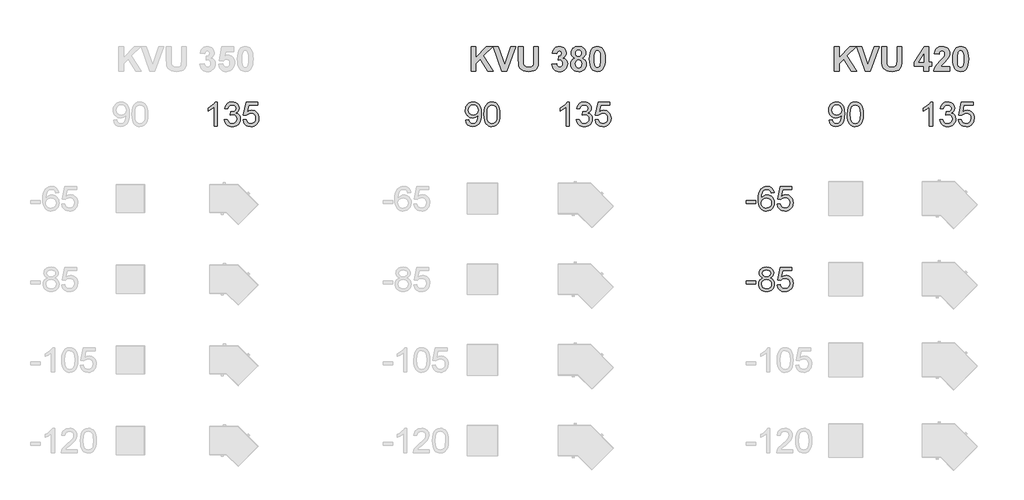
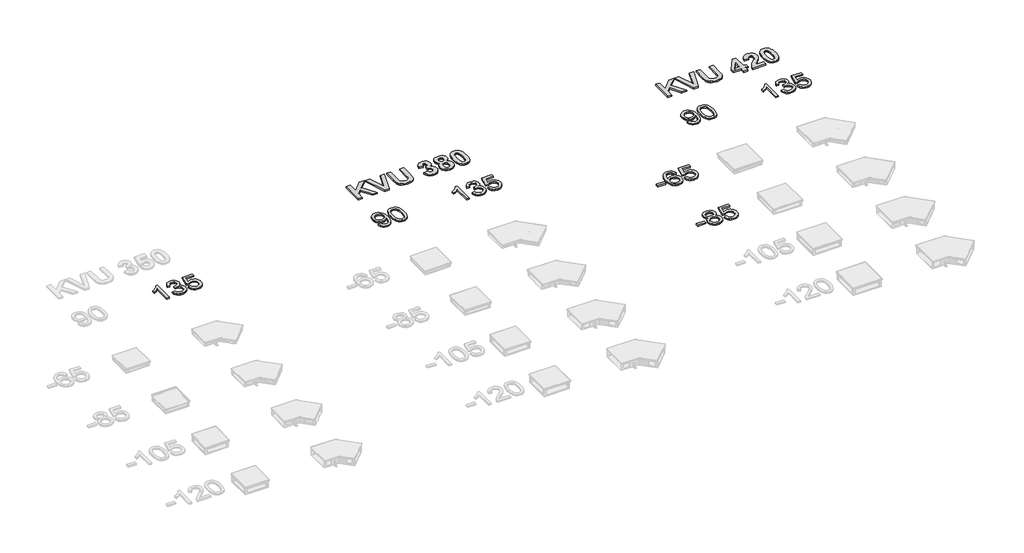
# One storey, part 6 of 6: 9 proxies.
"""IFC4 building model written with IfcOpenShell, lengths in millimetres."""

from ifc_helpers import new_model, si_unit, origin, origin_with_axes, place, context, project, spatial, polyline, outline, extrude, element, save

model = new_model("IFC4")

# Units and contexts
model_context = context("Model", 3, world=origin())
ifc_project = project(units=[si_unit("LENGTHUNIT", "METRE", prefix="MILLI")], contexts=[model_context])

# Site, building, storey
site = spatial("IfcSite", under=ifc_project)
building = spatial("IfcBuilding", under=site)
storey = spatial("IfcBuildingStorey", under=building, Name="Этаж 01", Elevation=0.0)

# Proxies
placement = place(None, origin())
element("IfcBuildingElementProxy", 1, Name="300", ObjectType="300", at=placement, inside=storey, context=model_context, shape_type="SweptSolid", body=[
    extrude(outline(polyline([(15952.7166136, 2114.0088699), (15915.0454973, 2114.0088699), (15915.0454973, 2348.8647356), (15879.3609437, 2323.4440898), (15839.7032647, 2304.4245906), (15839.7032647, 2340.0355677), (15869.2901741, 2356.130405), (15894.9223521, 2375.2786629), (15915.1282707, 2395.6409313), (15928.4364019, 2415.3778004), (15952.7166136, 2415.3778004), (15952.7166136, 2114.0088699)])), origin_with_axes(), (0.0, 0.0, 1.0), 20.0),
    extrude(outline(polyline([(16042.1855148, 2194.0599921), (16079.8566311, 2198.7688816), (16088.2903259, 2175.0956752), (16100.6419638, 2159.1112025), (16117.5185504, 2150.0061231), (16139.5270907, 2146.9710967), (16165.3524068, 2151.1465573), (16185.2916109, 2163.6729393), (16198.0387221, 2182.3613446), (16202.2877591, 2205.0228755), (16198.0755103, 2226.5347752), (16185.4387637, 2243.9815788), (16166.3089, 2255.5422705), (16142.6172995, 2259.3958344), (16116.2033722, 2255.2755561), (16120.397227, 2292.9466724), (16126.4304917, 2292.505214), (16149.0000521, 2295.2091466), (16169.1783795, 2303.3209446), (16183.4154128, 2317.042943), (16188.1610905, 2336.577477), (16184.7213938, 2352.8470582), (16174.4023039, 2366.0448248), (16158.6569545, 2374.7912192), (16138.9384795, 2377.7066841), (16119.1832164, 2374.7636281), (16103.0331968, 2365.9344602), (16091.2425789, 2351.2191804), (16084.5655207, 2330.6177887), (16046.8944044, 2335.3266782), (16057.9860465, 2369.1534277), (16077.7229155, 2394.4085266), (16104.725454, 2410.1354819), (16137.6141044, 2415.3778004), (16161.2965078, 2412.7934293), (16183.0475308, 2405.0403163), (16201.3864482, 2392.80824), (16214.8325351, 2376.7869791), (16223.0822889, 2358.3285), (16225.8322068, 2338.784769), (16223.2202446, 2320.5746102), (16215.3843581, 2304.0567086), (16202.4349119, 2289.9852223), (16184.4822705, 2279.1143093), (16208.0635064, 2269.5861657), (16225.5379012, 2253.3625697), (16236.3536319, 2231.3264382), (16239.9588754, 2204.3606879), (16238.1562536, 2185.2492183), (16232.7483883, 2167.6460648), (16223.7352794, 2151.5512275), (16211.116927, 2136.9647064), (16195.7440581, 2124.8613888), (16178.4673999, 2116.2161619), (16159.2869524, 2111.0290257), (16138.2027156, 2109.2999804), (16119.1464282, 2110.7761069), (16101.782398, 2115.2044864), (16086.110625, 2122.5851189), (16072.1311092, 2132.9180045), (16060.4094691, 2145.5961377), (16051.5113234, 2160.0125134), (16045.4366719, 2176.1671315), (16042.1855148, 2194.0599921)])), origin_with_axes(), (0.0, 0.0, 1.0), 20.0),
    extrude(outline(polyline([(16272.9211022, 2194.0599921), (16310.5922185, 2198.7688816), (16317.5084, 2176.1533359), (16329.5749294, 2159.9573311), (16346.7366245, 2150.2176553), (16368.9383029, 2146.9710967), (16395.9408414, 2151.4868482), (16416.1743511, 2165.0341026), (16428.8110976, 2186.0493616), (16433.0233465, 2212.9691266), (16429.0778121, 2238.3161961), (16417.2412089, 2257.7035772), (16397.4215664, 2270.00923), (16369.5269141, 2274.1111142), (16351.252376, 2272.4740393), (16336.4543228, 2267.5628147), (16315.301108, 2250.5666665), (16277.6299917, 2255.2755561), (16310.5922185, 2410.6689108), (16456.5677942, 2410.6689108), (16456.5677942, 2372.9977945), (16341.0528477, 2372.9977945), (16324.9396163, 2290.0036164), (16351.8501843, 2306.337577), (16380.0483392, 2311.7822305), (16398.3941544, 2310.0945719), (16415.2454491, 2305.0315959), (16430.6022231, 2296.5933026), (16444.4644765, 2284.7796921), (16455.9400955, 2270.3127326), (16464.1369662, 2253.9143927), (16469.0550887, 2235.5846723), (16470.6944628, 2215.3235714), (16464.7899568, 2177.6524551), (16457.4093242, 2160.858642), (16447.0764387, 2145.4259923), (16431.4230598, 2129.6208621), (16413.1577187, 2118.3314834), (16392.2804155, 2111.5578561), (16368.7911501, 2109.2999804), (16331.7914185, 2115.1033188), (16316.1127477, 2122.3574919), (16302.3148736, 2132.5133343), (16290.8346561, 2145.0650081), (16282.108955, 2159.5066757), (16272.9211022, 2194.0599921)])), origin_with_axes(), (0.0, 0.0, 1.0), 20.0),
])
element("IfcBuildingElementProxy", 2, Name="300", ObjectType="300", at=placement, inside=storey, context=model_context, shape_type="SweptSolid", body=[
    extrude(outline(polyline([(19031.5266107, 2189.3511025), (19069.197727, 2194.0599921), (19075.6356619, 2172.6768511), (19086.1202987, 2158.1179211), (19100.3941202, 2149.7578028), (19118.1996087, 2146.9710967), (19134.1748844, 2148.7645214), (19148.6970261, 2154.1447956), (19160.7635556, 2162.523308), (19169.3719943, 2173.3114475), (19181.6960411, 2206.0529451), (19187.1406946, 2249.7573261), (19186.9199654, 2257.114966), (19173.8693516, 2241.1856756), (19156.79043, 2228.5673232), (19136.9156052, 2220.3451606), (19115.477282, 2217.6044398), (19097.5821222, 2219.2783028), (19081.1263007, 2224.2998921), (19066.1098175, 2232.6692075), (19052.5326726, 2244.386249), (19041.2823813, 2258.8394129), (19033.246459, 2275.4170953), (19028.4249056, 2294.1192962), (19026.8177211, 2314.9460157), (19028.5030805, 2336.4671124), (19033.5591587, 2355.7809171), (19041.9859556, 2372.8874299), (19053.7834714, 2387.7866507), (19068.1193729, 2399.8577787), (19084.1613271, 2408.4800129), (19101.9093341, 2413.6533535), (19121.3633939, 2415.3778004), (19149.4603813, 2411.441463), (19175.037377, 2399.632451), (19196.429715, 2380.5393754), (19211.9727293, 2354.7508476), (19221.4364936, 2319.1030822), (19224.5910817, 2270.4322943), (19221.4456907, 2218.8276474), (19212.0095175, 2178.9400421), (19196.3653357, 2148.9668565), (19174.5959186, 2127.1054689), (19147.6393654, 2113.7513525), (19116.4337752, 2109.2999804), (19084.2257065, 2114.5514959), (19058.5291491, 2130.3060423), (19040.5581136, 2155.5703383), (19031.5266107, 2189.3511025)]), holes=[polyline([(19186.9199654, 2315.8289325), (19182.8548694, 2341.3599429), (19170.6595812, 2361.0048415), (19151.7320526, 2373.5312234), (19127.470235, 2377.7066841), (19102.3071065, 2373.2093267), (19082.1471732, 2359.7172545), (19068.9034214, 2339.0698775), (19064.4888374, 2313.1066057), (19068.6642981, 2289.8288725), (19081.19068, 2271.3519992), (19100.8539727, 2259.2946669), (19126.4401654, 2255.2755561), (19150.508845, 2259.2946669), (19169.8870291, 2271.3519992), (19182.6617313, 2290.5094541), (19186.9199654, 2315.8289325)])]), origin_with_axes(), (0.0, 0.0, 1.0), 20.0),
    extrude(outline(polyline([(19257.5533085, 2262.265314), (19260.3216205, 2310.5038406), (19268.6265566, 2348.9751002), (19282.3853432, 2378.2677041), (19301.5152069, 2398.9702634), (19326.1541036, 2411.2759161), (19356.4399888, 2415.3778004), (19379.6533427, 2412.9497792), (19400.4386754, 2405.6657157), (19417.8210997, 2393.8107184), (19430.8257282, 2377.6698959), (19440.6481775, 2357.3812038), (19448.484064, 2333.082598), (19453.6160178, 2302.2264957), (19455.3266691, 2262.265314), (19452.5859482, 2214.3026988), (19444.3637857, 2175.9234097), (19430.6877725, 2146.6032147), (19411.5854999, 2125.817882), (19386.891421, 2113.4294558), (19356.4399888, 2109.2999804), (19335.6914443, 2111.0934051), (19317.2973445, 2116.4736793), (19301.2576895, 2125.4408029), (19287.5724793, 2137.994776), (19274.4390921, 2160.6884966), (19265.0581012, 2188.9648264), (19259.4295067, 2222.8237656), (19257.5533085, 2262.265314)]), holes=[polyline([(19295.2244248, 2262.3388904), (19299.6390087, 2203.082298), (19305.1572387, 2182.8142993), (19312.8827606, 2168.786499), (19332.6012355, 2152.4249473), (19356.4399888, 2146.9710967), (19380.2787421, 2152.4433414), (19399.997217, 2168.8600754), (19407.7227389, 2182.9108683), (19413.2409689, 2203.1742685), (19417.6555528, 2262.3388904), (19413.3881217, 2320.2619105), (19408.0538327, 2340.4632306), (19400.5858282, 2354.824424), (19380.9041415, 2371.986119), (19355.9985304, 2377.7066841), (19332.4172945, 2372.6667007), (19313.4713718, 2357.5467507), (19305.4883325, 2341.9117659), (19299.7861615, 2320.8321276), (19295.2244248, 2262.3388904)])]), origin_with_axes(), (0.0, 0.0, 1.0), 20.0),
])
element("IfcBuildingElementProxy", 3, Name="300", ObjectType="300", at=placement, inside=storey, context=model_context, shape_type="SweptSolid", body=[
    extrude(outline(polyline([(20312.7166136, 2114.0088699), (20275.0454973, 2114.0088699), (20275.0454973, 2348.8647356), (20239.3609437, 2323.4440898), (20199.7032647, 2304.4245906), (20199.7032647, 2340.0355677), (20229.2901741, 2356.130405), (20254.9223521, 2375.2786629), (20275.1282707, 2395.6409313), (20288.4364019, 2415.3778004), (20312.7166136, 2415.3778004), (20312.7166136, 2114.0088699)])), origin_with_axes(), (0.0, 0.0, 1.0), 20.0),
    extrude(outline(polyline([(20402.1855148, 2194.0599921), (20439.8566311, 2198.7688816), (20448.2903259, 2175.0956752), (20460.6419638, 2159.1112025), (20477.5185504, 2150.0061231), (20499.5270907, 2146.9710967), (20525.3524068, 2151.1465573), (20545.2916109, 2163.6729393), (20558.0387221, 2182.3613446), (20562.2877591, 2205.0228755), (20558.0755103, 2226.5347752), (20545.4387637, 2243.9815788), (20526.3089, 2255.5422705), (20502.6172995, 2259.3958344), (20476.2033722, 2255.2755561), (20480.397227, 2292.9466724), (20486.4304917, 2292.505214), (20509.0000521, 2295.2091466), (20529.1783795, 2303.3209446), (20543.4154128, 2317.042943), (20548.1610905, 2336.577477), (20544.7213938, 2352.8470582), (20534.4023039, 2366.0448248), (20518.6569545, 2374.7912192), (20498.9384795, 2377.7066841), (20479.1832164, 2374.7636281), (20463.0331968, 2365.9344602), (20451.2425789, 2351.2191804), (20444.5655207, 2330.6177887), (20406.8944044, 2335.3266782), (20417.9860465, 2369.1534277), (20437.7229155, 2394.4085266), (20464.725454, 2410.1354819), (20497.6141044, 2415.3778004), (20521.2965078, 2412.7934293), (20543.0475308, 2405.0403163), (20561.3864482, 2392.80824), (20574.8325351, 2376.7869791), (20583.0822889, 2358.3285), (20585.8322068, 2338.784769), (20583.2202446, 2320.5746102), (20575.3843581, 2304.0567086), (20562.4349119, 2289.9852223), (20544.4822705, 2279.1143093), (20568.0635064, 2269.5861657), (20585.5379012, 2253.3625697), (20596.3536319, 2231.3264382), (20599.9588754, 2204.3606879), (20598.1562536, 2185.2492183), (20592.7483883, 2167.6460648), (20583.7352794, 2151.5512275), (20571.116927, 2136.9647064), (20555.7440581, 2124.8613888), (20538.4673999, 2116.2161619), (20519.2869524, 2111.0290257), (20498.2027156, 2109.2999804), (20479.1464282, 2110.7761069), (20461.782398, 2115.2044864), (20446.110625, 2122.5851189), (20432.1311092, 2132.9180045), (20420.4094691, 2145.5961377), (20411.5113234, 2160.0125134), (20405.4366719, 2176.1671315), (20402.1855148, 2194.0599921)])), origin_with_axes(), (0.0, 0.0, 1.0), 20.0),
    extrude(outline(polyline([(20632.9211022, 2194.0599921), (20670.5922185, 2198.7688816), (20677.5084, 2176.1533359), (20689.5749294, 2159.9573311), (20706.7366245, 2150.2176553), (20728.9383029, 2146.9710967), (20755.9408414, 2151.4868482), (20776.1743511, 2165.0341026), (20788.8110976, 2186.0493616), (20793.0233465, 2212.9691266), (20789.0778121, 2238.3161961), (20777.2412089, 2257.7035772), (20757.4215664, 2270.00923), (20729.5269141, 2274.1111142), (20711.252376, 2272.4740393), (20696.4543228, 2267.5628147), (20675.301108, 2250.5666665), (20637.6299917, 2255.2755561), (20670.5922185, 2410.6689108), (20816.5677942, 2410.6689108), (20816.5677942, 2372.9977945), (20701.0528477, 2372.9977945), (20684.9396163, 2290.0036164), (20711.8501843, 2306.337577), (20740.0483392, 2311.7822305), (20758.3941544, 2310.0945719), (20775.2454491, 2305.0315959), (20790.6022231, 2296.5933026), (20804.4644765, 2284.7796921), (20815.9400955, 2270.3127326), (20824.1369662, 2253.9143927), (20829.0550887, 2235.5846723), (20830.6944628, 2215.3235714), (20824.7899568, 2177.6524551), (20817.4093242, 2160.858642), (20807.0764387, 2145.4259923), (20791.4230598, 2129.6208621), (20773.1577187, 2118.3314834), (20752.2804155, 2111.5578561), (20728.7911501, 2109.2999804), (20691.7914185, 2115.1033188), (20676.1127477, 2122.3574919), (20662.3148736, 2132.5133343), (20650.8346561, 2145.0650081), (20642.108955, 2159.5066757), (20632.9211022, 2194.0599921)])), origin_with_axes(), (0.0, 0.0, 1.0), 20.0),
])
element("IfcBuildingElementProxy", 4, Name="300", ObjectType="300", at=placement, inside=storey, context=model_context, shape_type="SweptSolid", body=[
    extrude(outline(polyline([(23531.5266107, 2189.3511025), (23569.197727, 2194.0599921), (23575.6356619, 2172.6768511), (23586.1202987, 2158.1179211), (23600.3941202, 2149.7578028), (23618.1996087, 2146.9710967), (23634.1748844, 2148.7645214), (23648.6970261, 2154.1447956), (23660.7635556, 2162.523308), (23669.3719943, 2173.3114475), (23681.6960411, 2206.0529451), (23687.1406946, 2249.7573261), (23686.9199654, 2257.114966), (23673.8693516, 2241.1856756), (23656.79043, 2228.5673232), (23636.9156052, 2220.3451606), (23615.477282, 2217.6044398), (23597.5821222, 2219.2783028), (23581.1263007, 2224.2998921), (23566.1098175, 2232.6692075), (23552.5326726, 2244.386249), (23541.2823813, 2258.8394129), (23533.246459, 2275.4170953), (23528.4249056, 2294.1192962), (23526.8177211, 2314.9460157), (23528.5030805, 2336.4671124), (23533.5591587, 2355.7809171), (23541.9859556, 2372.8874299), (23553.7834714, 2387.7866507), (23568.1193729, 2399.8577787), (23584.1613271, 2408.4800129), (23601.9093341, 2413.6533535), (23621.3633939, 2415.3778004), (23649.4603813, 2411.441463), (23675.037377, 2399.632451), (23696.429715, 2380.5393754), (23711.9727293, 2354.7508476), (23721.4364936, 2319.1030822), (23724.5910817, 2270.4322943), (23721.4456907, 2218.8276474), (23712.0095175, 2178.9400421), (23696.3653357, 2148.9668565), (23674.5959186, 2127.1054689), (23647.6393654, 2113.7513525), (23616.4337752, 2109.2999804), (23584.2257065, 2114.5514959), (23558.5291491, 2130.3060423), (23540.5581136, 2155.5703383), (23531.5266107, 2189.3511025)]), holes=[polyline([(23686.9199654, 2315.8289325), (23682.8548694, 2341.3599429), (23670.6595812, 2361.0048415), (23651.7320526, 2373.5312234), (23627.470235, 2377.7066841), (23602.3071065, 2373.2093267), (23582.1471732, 2359.7172545), (23568.9034214, 2339.0698775), (23564.4888374, 2313.1066057), (23568.6642981, 2289.8288725), (23581.19068, 2271.3519992), (23600.8539727, 2259.2946669), (23626.4401654, 2255.2755561), (23650.508845, 2259.2946669), (23669.8870291, 2271.3519992), (23682.6617313, 2290.5094541), (23686.9199654, 2315.8289325)])]), origin_with_axes(), (0.0, 0.0, 1.0), 20.0),
    extrude(outline(polyline([(23757.5533085, 2262.265314), (23760.3216205, 2310.5038406), (23768.6265566, 2348.9751002), (23782.3853432, 2378.2677041), (23801.5152069, 2398.9702634), (23826.1541036, 2411.2759161), (23856.4399888, 2415.3778004), (23879.6533427, 2412.9497792), (23900.4386754, 2405.6657157), (23917.8210997, 2393.8107184), (23930.8257282, 2377.6698959), (23940.6481775, 2357.3812038), (23948.484064, 2333.082598), (23953.6160178, 2302.2264957), (23955.3266691, 2262.265314), (23952.5859482, 2214.3026988), (23944.3637857, 2175.9234097), (23930.6877725, 2146.6032147), (23911.5854999, 2125.817882), (23886.891421, 2113.4294558), (23856.4399888, 2109.2999804), (23835.6914443, 2111.0934051), (23817.2973445, 2116.4736793), (23801.2576895, 2125.4408029), (23787.5724793, 2137.994776), (23774.4390921, 2160.6884966), (23765.0581012, 2188.9648264), (23759.4295067, 2222.8237656), (23757.5533085, 2262.265314)]), holes=[polyline([(23795.2244248, 2262.3388904), (23799.6390087, 2203.082298), (23805.1572387, 2182.8142993), (23812.8827606, 2168.786499), (23832.6012355, 2152.4249473), (23856.4399888, 2146.9710967), (23880.2787421, 2152.4433414), (23899.997217, 2168.8600754), (23907.7227389, 2182.9108683), (23913.2409689, 2203.1742685), (23917.6555528, 2262.3388904), (23913.3881217, 2320.2619105), (23908.0538327, 2340.4632306), (23900.5858282, 2354.824424), (23880.9041415, 2371.986119), (23855.9985304, 2377.7066841), (23832.4172945, 2372.6667007), (23813.4713718, 2357.5467507), (23805.4883325, 2341.9117659), (23799.7861615, 2320.8321276), (23795.2244248, 2262.3388904)])]), origin_with_axes(), (0.0, 0.0, 1.0), 20.0),
])
element("IfcBuildingElementProxy", 5, Name="300", ObjectType="300", at=placement, inside=storey, context=model_context, shape_type="SweptSolid", body=[
    extrude(outline(polyline([(24812.7166136, 2114.0088699), (24775.0454973, 2114.0088699), (24775.0454973, 2348.8647356), (24739.3609437, 2323.4440898), (24699.7032647, 2304.4245906), (24699.7032647, 2340.0355677), (24729.2901741, 2356.130405), (24754.9223521, 2375.2786629), (24775.1282707, 2395.6409313), (24788.4364019, 2415.3778004), (24812.7166136, 2415.3778004), (24812.7166136, 2114.0088699)])), origin_with_axes(), (0.0, 0.0, 1.0), 20.0),
    extrude(outline(polyline([(24902.1855148, 2194.0599921), (24939.8566311, 2198.7688816), (24948.2903259, 2175.0956752), (24960.6419638, 2159.1112025), (24977.5185504, 2150.0061231), (24999.5270907, 2146.9710967), (25025.3524068, 2151.1465573), (25045.2916109, 2163.6729393), (25058.0387221, 2182.3613446), (25062.2877591, 2205.0228755), (25058.0755103, 2226.5347752), (25045.4387637, 2243.9815788), (25026.3089, 2255.5422705), (25002.6172995, 2259.3958344), (24976.2033722, 2255.2755561), (24980.397227, 2292.9466724), (24986.4304917, 2292.505214), (25009.0000521, 2295.2091466), (25029.1783795, 2303.3209446), (25043.4154128, 2317.042943), (25048.1610905, 2336.577477), (25044.7213938, 2352.8470582), (25034.4023039, 2366.0448248), (25018.6569545, 2374.7912192), (24998.9384795, 2377.7066841), (24979.1832164, 2374.7636281), (24963.0331968, 2365.9344602), (24951.2425789, 2351.2191804), (24944.5655207, 2330.6177887), (24906.8944044, 2335.3266782), (24917.9860465, 2369.1534277), (24937.7229155, 2394.4085266), (24964.725454, 2410.1354819), (24997.6141044, 2415.3778004), (25021.2965078, 2412.7934293), (25043.0475308, 2405.0403163), (25061.3864482, 2392.80824), (25074.8325351, 2376.7869791), (25083.0822889, 2358.3285), (25085.8322068, 2338.784769), (25083.2202446, 2320.5746102), (25075.3843581, 2304.0567086), (25062.4349119, 2289.9852223), (25044.4822705, 2279.1143093), (25068.0635064, 2269.5861657), (25085.5379012, 2253.3625697), (25096.3536319, 2231.3264382), (25099.9588754, 2204.3606879), (25098.1562536, 2185.2492183), (25092.7483883, 2167.6460648), (25083.7352794, 2151.5512275), (25071.116927, 2136.9647064), (25055.7440581, 2124.8613888), (25038.4673999, 2116.2161619), (25019.2869524, 2111.0290257), (24998.2027156, 2109.2999804), (24979.1464282, 2110.7761069), (24961.782398, 2115.2044864), (24946.110625, 2122.5851189), (24932.1311092, 2132.9180045), (24920.4094691, 2145.5961377), (24911.5113234, 2160.0125134), (24905.4366719, 2176.1671315), (24902.1855148, 2194.0599921)])), origin_with_axes(), (0.0, 0.0, 1.0), 20.0),
    extrude(outline(polyline([(25132.9211022, 2194.0599921), (25170.5922185, 2198.7688816), (25177.5084, 2176.1533359), (25189.5749294, 2159.9573311), (25206.7366245, 2150.2176553), (25228.9383029, 2146.9710967), (25255.9408414, 2151.4868482), (25276.1743511, 2165.0341026), (25288.8110976, 2186.0493616), (25293.0233465, 2212.9691266), (25289.0778121, 2238.3161961), (25277.2412089, 2257.7035772), (25257.4215664, 2270.00923), (25229.5269141, 2274.1111142), (25211.252376, 2272.4740393), (25196.4543228, 2267.5628147), (25175.301108, 2250.5666665), (25137.6299917, 2255.2755561), (25170.5922185, 2410.6689108), (25316.5677942, 2410.6689108), (25316.5677942, 2372.9977945), (25201.0528477, 2372.9977945), (25184.9396163, 2290.0036164), (25211.8501843, 2306.337577), (25240.0483392, 2311.7822305), (25258.3941544, 2310.0945719), (25275.2454491, 2305.0315959), (25290.6022231, 2296.5933026), (25304.4644765, 2284.7796921), (25315.9400955, 2270.3127326), (25324.1369662, 2253.9143927), (25329.0550887, 2235.5846723), (25330.6944628, 2215.3235714), (25324.7899568, 2177.6524551), (25317.4093242, 2160.858642), (25307.0764387, 2145.4259923), (25291.4230598, 2129.6208621), (25273.1577187, 2118.3314834), (25252.2804155, 2111.5578561), (25228.7911501, 2109.2999804), (25191.7914185, 2115.1033188), (25176.1127477, 2122.3574919), (25162.3148736, 2132.5133343), (25150.8346561, 2145.0650081), (25142.108955, 2159.5066757), (25132.9211022, 2194.0599921)])), origin_with_axes(), (0.0, 0.0, 1.0), 20.0),
])
element("IfcBuildingElementProxy", 6, Name="300", ObjectType="300", at=placement, inside=storey, context=model_context, shape_type="SweptSolid", body=[
    extrude(outline(polyline([(22506.6903592, 157.6054217), (22506.6903592, 195.276538), (22624.4125977, 195.276538), (22624.4125977, 157.6054217), (22506.6903592, 157.6054217)])), origin_with_axes(), (0.0, 0.0, 1.0), 20.0),
    extrude(outline(polyline([(22712.2628181, 234.1248767), (22692.0936877, 244.0576906), (22677.939428, 257.5221716), (22669.5793096, 274.2424083), (22666.7926035, 293.9424891), (22668.3101167, 309.3061609), (22672.8626564, 323.3914428), (22680.4502226, 336.1983348), (22691.0728152, 347.7268368), (22704.219998, 357.2549805), (22719.3813347, 364.0607974), (22755.74647, 369.5054509), (22792.3323344, 363.9320387), (22807.659218, 356.9652734), (22821.0087359, 347.211802), (22831.8244666, 335.4579723), (22839.5499885, 322.4901319), (22844.1853016, 308.308281), (22845.730406, 292.9124195), (22842.9804881, 273.8469351), (22834.7307343, 257.411807), (22820.8891742, 244.0300994), (22801.3638374, 234.1248767), (22824.5496001, 222.1779089), (22841.4261866, 204.5839525), (22851.7176854, 182.189136), (22855.148185, 155.8395881), (22853.4467308, 137.0500152), (22848.3423681, 119.8239408), (22839.835097, 104.1613649), (22827.9249174, 90.0622874), (22813.2372287, 78.4096252), (22796.3974304, 70.0862951), (22777.4055224, 65.092297), (22756.2615047, 63.4276309), (22735.1174871, 65.0991948), (22716.1255791, 70.1138862), (22699.2857807, 78.4717053), (22684.5980921, 90.172652), (22672.6879125, 104.3705977), (22664.1806414, 120.2194139), (22659.0762787, 137.7191006), (22657.3748244, 156.8696577), (22660.9432798, 184.2400782), (22671.6486459, 206.7544563), (22688.9390996, 223.6402398), (22712.2628181, 234.1248767)]), holes=[polyline([(22704.4637198, 292.8388431), (22707.8022489, 276.3945179), (22717.8178362, 263.2611307), (22734.2161762, 254.652692), (22756.7029631, 251.7832125), (22778.6655183, 254.6342979), (22794.8155378, 263.1875543), (22804.7483517, 275.8794832), (22808.0592897, 291.146586), (22804.6379871, 306.9931029), (22794.3740794, 320.098899), (22778.0033307, 328.9004757), (22756.2615047, 331.8343346), (22734.3817231, 328.9648551), (22718.0385654, 320.3564164), (22707.8574312, 307.7380639), (22704.4637198, 292.8388431)]), polyline([(22695.0459407, 158.1940329), (22701.3367229, 129.8303311), (22710.0463291, 117.6626341), (22723.5935836, 108.6035399), (22739.8171796, 102.9749454), (22756.5558103, 101.0987472), (22782.1971854, 105.0442816), (22801.4374138, 116.8808848), (22813.467155, 134.8059351), (22817.4770687, 157.0168105), (22813.3383963, 179.604765), (22800.922379, 197.9252884), (22781.2406922, 210.0653942), (22755.3050116, 214.1120962), (22730.0223214, 210.1205765), (22710.9752311, 198.1460176), (22699.0282633, 180.1749821), (22695.0459407, 158.1940329)])]), origin_with_axes(), (0.0, 0.0, 1.0), 20.0),
    extrude(outline(polyline([(22888.1104118, 148.1876426), (22925.7815281, 152.8965322), (22932.6977096, 130.2809865), (22944.7642391, 114.0849817), (22961.9259341, 104.3453059), (22984.1276126, 101.0987472), (23011.130151, 105.6144987), (23031.3636607, 119.1617532), (23044.0004073, 140.1770122), (23048.2126561, 167.0967772), (23044.2671217, 192.4438466), (23032.4305185, 211.8312278), (23012.610876, 224.1368805), (22984.7162238, 228.2387648), (22966.4416856, 226.6016899), (22951.6436324, 221.6904653), (22930.4904177, 204.6943171), (22892.8193014, 209.4032066), (22925.7815281, 364.7965614), (23071.7571038, 364.7965614), (23071.7571038, 327.1254451), (22956.2421573, 327.1254451), (22940.1289259, 244.131267), (22967.0394939, 260.4652276), (22995.2376488, 265.9098811), (23013.5834641, 264.2222224), (23030.4347587, 259.1592465), (23045.7915327, 250.7209532), (23059.6537862, 238.9073426), (23071.1294052, 224.4403832), (23079.3262759, 208.0420432), (23084.2443983, 189.7123228), (23085.8837724, 169.4512219), (23079.9792664, 131.7801056), (23072.5986339, 114.9862926), (23062.2657483, 99.5536429), (23046.6123694, 83.7485126), (23028.3470284, 72.4591339), (23007.4697252, 65.6855067), (22983.9804598, 63.4276309), (22946.9807281, 69.2309694), (22931.3020573, 76.4851425), (22917.5041832, 86.6409848), (22906.0239657, 99.1926587), (22897.2982646, 113.6343262), (22888.1104118, 148.1876426)])), origin_with_axes(), (0.0, 0.0, 1.0), 20.0),
])
element("IfcBuildingElementProxy", 7, Name="300", ObjectType="300", at=placement, inside=storey, context=model_context, shape_type="SweptSolid", body=[
    extrude(outline(polyline([(22506.6903592, 1157.6054217), (22506.6903592, 1195.276538), (22624.4125977, 1195.276538), (22624.4125977, 1157.6054217), (22506.6903592, 1157.6054217)])), origin_with_axes(), (0.0, 0.0, 1.0), 20.0),
    extrude(outline(polyline([(22850.4392955, 1289.4543288), (22812.7681792, 1284.7454392), (22806.6981263, 1303.4154505), (22798.4943578, 1316.1625616), (22781.4062391, 1327.9163914), (22760.7496651, 1331.8343346), (22743.2384821, 1329.5534662), (22726.7573687, 1322.7108611), (22712.603109, 1308.299084), (22701.0424173, 1288.4610474), (22693.2341219, 1260.4008482), (22690.3370512, 1221.3225833), (22705.4478042, 1238.9533279), (22723.5567954, 1251.3785423), (22743.6523494, 1258.7453792), (22764.7227906, 1261.2009915), (22782.8225848, 1259.5225299), (22799.5244274, 1254.4871451), (22814.8283184, 1246.0948371), (22828.7342578, 1234.3456059), (22840.290351, 1219.9384273), (22848.5447032, 1203.572277), (22853.4973146, 1185.2471551), (22855.148185, 1164.9630616), (22852.0395822, 1137.9881143), (22842.7137736, 1112.9813357), (22827.9433115, 1091.7729387), (22808.5007481, 1076.1931362), (22785.2690001, 1066.6190072), (22759.1309843, 1063.4276309), (22736.6740878, 1065.5429524), (22716.3922935, 1071.8889168), (22698.2856016, 1082.4655242), (22682.3540119, 1097.2727745), (22669.3654782, 1116.9360671), (22660.0879542, 1142.0808015), (22654.5214397, 1172.7069776), (22652.6659349, 1208.8145954), (22654.7260741, 1249.2954105), (22660.9064916, 1283.8441283), (22671.2071875, 1312.460749), (22685.6281617, 1335.1452726), (22701.2585479, 1350.1778506), (22719.3813347, 1360.9154063), (22739.996522, 1367.3579398), (22763.1041099, 1369.5054509), (22796.1583071, 1364.1895561), (22822.6274167, 1348.2418716), (22841.1686692, 1322.9131962), (22850.4392955, 1289.4543288)]), holes=[polyline([(22690.3370512, 1165.5516728), (22692.516752, 1148.8590273), (22699.0558545, 1132.9205398), (22709.2093976, 1119.2169355), (22722.2324202, 1109.2289393), (22737.9501784, 1103.1312953), (22756.1879283, 1101.0987472), (22781.0475542, 1105.3109961), (22800.5912852, 1117.9477426), (22813.2556228, 1137.8133704), (22817.4770687, 1163.7122628), (22813.3108051, 1188.5718886), (22800.8120144, 1207.5270084), (22780.9371896, 1219.5291585), (22754.642824, 1223.5298752), (22729.8199863, 1219.5291585), (22709.0622448, 1207.5270084), (22695.0183496, 1189.0317411), (22690.3370512, 1165.5516728)])]), origin_with_axes(), (0.0, 0.0, 1.0), 20.0),
    extrude(outline(polyline([(22888.1104118, 1148.1876426), (22925.7815281, 1152.8965322), (22932.6977096, 1130.2809865), (22944.7642391, 1114.0849817), (22961.9259341, 1104.3453059), (22984.1276126, 1101.0987472), (23011.130151, 1105.6144987), (23031.3636607, 1119.1617532), (23044.0004073, 1140.1770122), (23048.2126561, 1167.0967772), (23044.2671217, 1192.4438466), (23032.4305185, 1211.8312278), (23012.610876, 1224.1368805), (22984.7162238, 1228.2387648), (22966.4416856, 1226.6016899), (22951.6436324, 1221.6904653), (22930.4904177, 1204.6943171), (22892.8193014, 1209.4032066), (22925.7815281, 1364.7965614), (23071.7571038, 1364.7965614), (23071.7571038, 1327.1254451), (22956.2421573, 1327.1254451), (22940.1289259, 1244.131267), (22967.0394939, 1260.4652276), (22995.2376488, 1265.9098811), (23013.5834641, 1264.2222224), (23030.4347587, 1259.1592465), (23045.7915327, 1250.7209532), (23059.6537862, 1238.9073426), (23071.1294052, 1224.4403832), (23079.3262759, 1208.0420432), (23084.2443983, 1189.7123228), (23085.8837724, 1169.4512219), (23079.9792664, 1131.7801056), (23072.5986339, 1114.9862926), (23062.2657483, 1099.5536429), (23046.6123694, 1083.7485126), (23028.3470284, 1072.4591339), (23007.4697252, 1065.6855067), (22983.9804598, 1063.4276309), (22946.9807281, 1069.2309694), (22931.3020573, 1076.4851425), (22917.5041832, 1086.6409848), (22906.0239657, 1099.1926587), (22897.2982646, 1113.6343262), (22888.1104118, 1148.1876426)])), origin_with_axes(), (0.0, 0.0, 1.0), 20.0),
])
element("IfcBuildingElementProxy", 8, Name="300_", ObjectType="300_", at=placement, inside=storey, context=model_context, shape_type="SweptSolid", body=[
    extrude(outline(polyline([(19096.673179, 2797.023962), (19096.673179, 3103.101782), (19154.9737162, 3103.101782), (19154.9737162, 2963.5752361), (19286.3017491, 3103.101782), (19366.3131633, 3103.101782), (19250.4712106, 2986.1970591), (19371.1715414, 2797.023962), (19303.0024238, 2797.023962), (19212.5910439, 2947.8614194), (19154.9737162, 2889.6367945), (19154.9737162, 2797.023962), (19096.673179, 2797.023962)])), origin_with_axes(), (0.0, 0.0, 1.0), 20.0),
    extrude(outline(polyline([(19476.7653528, 2797.023962), (19373.6007305, 3103.101782), (19435.0895782, 3103.101782), (19512.0645062, 2874.7580115), (19589.2671706, 3103.101782), (19650.5282819, 3103.101782), (19541.8979842, 2797.023962), (19476.7653528, 2797.023962)])), origin_with_axes(), (0.0, 0.0, 1.0), 20.0),
    extrude(outline(polyline([(19684.5369285, 3103.101782), (19742.8374657, 3103.101782), (19742.8374657, 2937.9928389), (19745.3425669, 2886.9798689), (19752.6491121, 2870.1368589), (19765.9147616, 2856.9566106), (19785.1395156, 2848.4449599), (19810.3233739, 2845.607743), (19835.4787652, 2848.2836465), (19853.5553477, 2856.3113572), (19865.1983749, 2868.239055), (19871.0531001, 2882.6149199), (19874.0136743, 2934.4249675), (19874.0136743, 3103.101782), (19932.3142114, 3103.101782), (19932.3142114, 2942.5475684), (19931.0426828, 2895.5389647), (19927.2280968, 2864.7376067), (19919.9974638, 2843.7953402), (19908.4777939, 2826.364011), (19892.5077737, 2812.2917948), (19871.9260899, 2801.4268672), (19845.5371261, 2794.4809047), (19812.1452657, 2792.1655839), (19773.0315264, 2794.6896632), (19744.6593575, 2802.2619009), (19724.0681847, 2813.876461), (19708.2974339, 2828.5275075), (19697.2142589, 2845.0953359), (19690.6858133, 2862.460242), (19686.0741497, 2894.9886016), (19684.5369285, 2940.0424672), (19684.5369285, 3103.101782)])), origin_with_axes(), (0.0, 0.0, 1.0), 20.0),
    extrude(outline(polyline([(20097.4990666, 2882.5769638), (20155.7996038, 2889.3331458), (20160.2973991, 2870.5828429), (20168.9324071, 2856.8427423), (20180.7557256, 2848.4164928), (20194.8184528, 2845.607743), (20209.9059942, 2848.8245207), (20222.3745661, 2858.4748537), (20230.7438815, 2873.5718841), (20233.5336533, 2893.1287537), (20230.981107, 2911.6323422), (20223.3234681, 2925.8468937), (20211.9840895, 2934.8994185), (20198.3863243, 2937.9169268), (20175.2331161, 2933.5899338), (20180.3192307, 2981.6423296), (20196.9155262, 2983.729914), (20209.0519824, 2991.2072615), (20216.4818849, 3003.0495581), (20218.958519, 3018.2319897), (20217.1081602, 3031.1275675), (20211.5570836, 3041.1195052), (20202.9315647, 3047.5245935), (20191.8578787, 3049.659623), (20180.5944123, 3047.1829888), (20171.0959036, 3039.7530864), (20164.1784082, 3027.559696), (20160.6579819, 3010.7925982), (20102.3574447, 3019.5224963), (20109.0282256, 3045.6078115), (20118.4128661, 3065.8668686), (20131.2799768, 3081.3624378), (20148.3981684, 3093.1572894), (20168.7900718, 3100.6156588), (20191.4783179, 3103.101782), (20210.8833632, 3101.3795249), (20228.2577583, 3096.2127537), (20243.6015032, 3087.6014683), (20256.9145979, 3075.5456688), (20272.1729416, 3051.5194708), (20277.2590561, 3024.5326988), (20274.530963, 3005.3980905), (20266.3466835, 2988.3036215), (20252.7062176, 2973.2492917), (20233.6095654, 2960.2351012), (20257.445983, 2951.1730873), (20275.9685495, 2935.2220452), (20287.8677802, 2913.7863496), (20291.8341904, 2888.2703756), (20290.0763495, 2869.076461), (20284.8028268, 2851.3485999), (20276.0136223, 2835.0867924), (20263.708736, 2820.2910384), (20248.7848802, 2807.9861521), (20232.1387674, 2799.1969475), (20213.7703975, 2793.9234248), (20193.6797705, 2792.1655839), (20174.6756362, 2793.7288999), (20157.365292, 2798.4188479), (20141.7487378, 2806.2354279), (20127.8259736, 2817.1786399), (20116.1236401, 2830.6459311), (20107.1683777, 2846.0347489), (20097.4990666, 2882.5769638)])), origin_with_axes(), (0.0, 0.0, 1.0), 20.0),
    extrude(outline(polyline([(20381.8660095, 2961.2219592), (20360.8952759, 2972.5898048), (20346.5668562, 2987.5634779), (20338.311409, 3005.1561205), (20335.5595933, 3024.3808744), (20337.0612307, 3040.7185941), (20341.5661428, 3055.5712823), (20349.0743296, 3068.9389388), (20359.5857912, 3080.8215637), (20372.863302, 3090.5691592), (20388.6696366, 3097.5317274), (20427.8687771, 3103.101782), (20466.830692, 3097.5317274), (20482.6251654, 3090.5691592), (20495.9619826, 3080.8215637), (20506.5564731, 3068.9389388), (20514.1239663, 3055.5712823), (20518.6644622, 3040.7185941), (20520.1779609, 3024.3808744), (20517.1130075, 3004.2926197), (20507.9181474, 2986.5386638), (20493.1627218, 2971.9160844), (20473.4160717, 2961.2219592), (20495.667823, 2948.7344093), (20511.8655796, 2931.6162177), (20521.7436491, 2910.6834402), (20525.036339, 2886.7521325), (20523.4042276, 2866.7113228), (20518.5078934, 2848.6442293), (20510.3473365, 2832.5508518), (20498.9225567, 2818.4311905), (20484.7886619, 2806.9399876), (20468.5007595, 2798.7319856), (20450.0588497, 2793.8071843), (20429.4629324, 2792.1655839), (20392.5316677, 2797.5933032), (20376.5996036, 2804.3779523), (20362.356585, 2813.876461), (20348.5073607, 2827.8964877), (20338.6150576, 2844.2982583), (20332.6796758, 2863.0817728), (20330.7012152, 2884.2470313), (20333.7851466, 2907.8462233), (20343.0369408, 2929.4527212), (20358.9120708, 2947.7001061), (20381.8660095, 2961.2219592)]), holes=[polyline([(20393.8601304, 3020.813003), (20396.1659622, 3004.3875099), (20403.0834576, 2992.0043392), (20413.8345169, 2984.232832), (20427.6410406, 2981.6423296), (20441.6468337, 2984.2612991), (20452.5402284, 2992.1182074), (20459.5431249, 3004.5867793), (20461.8774238, 3021.0407395), (20459.571592, 3036.697622), (20452.6540966, 3048.9005014), (20441.9409933, 3056.7574097), (20428.2483379, 3059.3763792), (20414.1286765, 3056.7384317), (20403.1973258, 3048.8245892), (20396.1944293, 3036.5457977), (20393.8601304, 3020.813003)]), polyline([(20389.0017523, 2889.1813215), (20391.8294802, 2866.815702), (20400.3126638, 2849.972692), (20413.0279503, 2839.4114131), (20428.5519865, 2835.8909868), (20443.6679949, 2839.2785668), (20455.9183194, 2849.4413069), (20464.0314312, 2865.9806683), (20466.7358018, 2888.4981121), (20463.9839861, 2908.6243229), (20455.728539, 2924.3666066), (20443.240989, 2934.5293467), (20427.7928649, 2937.9169268), (20410.7031404, 2934.0738738), (20398.6046403, 2922.5447148), (20391.4024743, 2906.5177605), (20389.0017523, 2889.1813215)])]), origin_with_axes(), (0.0, 0.0, 1.0), 20.0),
    extrude(outline(polyline([(20661.0709257, 3103.101782), (20681.6288869, 3101.1280659), (20699.8051041, 3095.2069176), (20715.5995775, 3085.3383371), (20729.0123068, 3071.5223244), (20741.7987609, 3049.7687467), (20750.9319424, 3021.8567952), (20756.4118513, 2987.7864699), (20758.2384876, 2947.5577708), (20756.4023622, 2907.3670278), (20750.8939863, 2873.2587464), (20741.7133597, 2845.2329267), (20728.8604825, 2823.2895686), (20715.5141763, 2809.6728253), (20699.7671481, 2799.9465801), (20681.6193978, 2794.110833), (20661.0709257, 2792.1655839), (20640.3018337, 2794.3006134), (20621.6440487, 2800.7057017), (20605.0975706, 2811.3808489), (20590.6623994, 2826.3260549), (20578.9553213, 2846.7511699), (20570.5931227, 2873.8660437), (20565.5758035, 2907.6706764), (20563.9033637, 2948.1650681), (20565.7394891, 2988.1565417), (20571.247865, 3022.1224877), (20580.4284916, 3050.0629063), (20593.2813688, 3071.9777973), (20606.627675, 3085.5945406), (20622.3747032, 3095.3207858), (20640.5224535, 3101.156533), (20661.0709257, 3103.101782)]), holes=[polyline([(20661.0709257, 3049.659623), (20650.7848283, 3048.0559786), (20641.6374133, 3043.2450456), (20634.0461975, 3034.277922), (20628.4286978, 3020.2057058), (20623.7601001, 2991.2262396), (20622.2039009, 2947.5577708), (20623.5892978, 2904.4681323), (20627.7454884, 2877.376981), (20634.0177304, 2861.4733839), (20641.7512815, 2851.9464081), (20650.8132953, 2847.1924093), (20661.0709257, 2845.607743), (20671.357023, 2847.2113873), (20680.504438, 2852.0223203), (20688.0956538, 2860.9894439), (20693.7131535, 2875.0616602), (20698.3817512, 2903.8893021), (20699.9379504, 2947.5577708), (20698.5525535, 2990.5999643), (20694.3963629, 3017.7006046), (20688.1241209, 3033.6516467), (20680.3905698, 3043.2450456), (20671.328556, 3048.0559786), (20661.0709257, 3049.659623)])]), origin_with_axes(), (0.0, 0.0, 1.0), 20.0),
])
element("IfcBuildingElementProxy", 9, Name="300_", ObjectType="300_", at=placement, inside=storey, context=model_context, shape_type="SweptSolid", body=[
    extrude(outline(polyline([(23596.673179, 2797.023962), (23596.673179, 3103.101782), (23654.9737162, 3103.101782), (23654.9737162, 2963.5752361), (23786.3017491, 3103.101782), (23866.3131633, 3103.101782), (23750.4712106, 2986.1970591), (23871.1715414, 2797.023962), (23803.0024238, 2797.023962), (23712.5910439, 2947.8614194), (23654.9737162, 2889.6367945), (23654.9737162, 2797.023962), (23596.673179, 2797.023962)])), origin_with_axes(), (0.0, 0.0, 1.0), 20.0),
    extrude(outline(polyline([(23976.7653528, 2797.023962), (23873.6007305, 3103.101782), (23935.0895782, 3103.101782), (24012.0645062, 2874.7580115), (24089.2671706, 3103.101782), (24150.5282819, 3103.101782), (24041.8979842, 2797.023962), (23976.7653528, 2797.023962)])), origin_with_axes(), (0.0, 0.0, 1.0), 20.0),
    extrude(outline(polyline([(24184.5369285, 3103.101782), (24242.8374657, 3103.101782), (24242.8374657, 2937.9928389), (24245.3425669, 2886.9798689), (24252.6491121, 2870.1368589), (24265.9147616, 2856.9566106), (24285.1395156, 2848.4449599), (24310.3233739, 2845.607743), (24335.4787652, 2848.2836465), (24353.5553477, 2856.3113572), (24365.1983749, 2868.239055), (24371.0531001, 2882.6149199), (24374.0136743, 2934.4249675), (24374.0136743, 3103.101782), (24432.3142114, 3103.101782), (24432.3142114, 2942.5475684), (24431.0426828, 2895.5389647), (24427.2280968, 2864.7376067), (24419.9974638, 2843.7953402), (24408.4777939, 2826.364011), (24392.5077737, 2812.2917948), (24371.9260899, 2801.4268672), (24345.5371261, 2794.4809047), (24312.1452657, 2792.1655839), (24273.0315264, 2794.6896632), (24244.6593575, 2802.2619009), (24224.0681847, 2813.876461), (24208.2974339, 2828.5275075), (24197.2142589, 2845.0953359), (24190.6858133, 2862.460242), (24186.0741497, 2894.9886016), (24184.5369285, 2940.0424672), (24184.5369285, 3103.101782)])), origin_with_axes(), (0.0, 0.0, 1.0), 20.0),
    extrude(outline(polyline([(24704.3833847, 2797.023962), (24704.3833847, 2860.1828773), (24587.7823104, 2860.1828773), (24587.7823104, 2908.5389217), (24712.1264248, 3098.2434039), (24762.6839219, 3098.2434039), (24762.6839219, 2908.7666582), (24801.5509466, 2908.7666582), (24801.5509466, 2860.1828773), (24762.6839219, 2860.1828773), (24762.6839219, 2797.023962), (24704.3833847, 2797.023962)]), holes=[polyline([(24704.3833847, 2908.7666582), (24704.3833847, 3008.2115848), (24639.2507534, 2908.7666582), (24704.3833847, 2908.7666582)])]), origin_with_axes(), (0.0, 0.0, 1.0), 20.0),
    extrude(outline(polyline([(25025.036339, 2855.3244992), (25025.036339, 2797.023962), (24830.7012152, 2797.023962), (24836.9070341, 2826.4304341), (24849.2996938, 2854.2237729), (24872.3200557, 2885.6419172), (24910.4089808, 2925.9228059), (24955.5008025, 2974.8102354), (24963.927052, 2992.4598121), (24966.7358018, 3009.8816523), (24964.3730359, 3026.8575086), (24957.2847382, 3039.3735256), (24946.0402498, 3047.0880986), (24931.208912, 3049.659623), (24916.4819534, 3047.1260547), (24905.0951298, 3039.5253499), (24897.4280018, 3026.0604309), (24893.8601304, 3005.9342201), (24835.5595933, 3011.2480712), (24839.3931572, 3034.0715358), (24845.8836467, 3053.4267638), (24855.0310617, 3069.3137551), (24866.8354023, 3081.7325096), (24896.3842097, 3097.7594639), (24932.4994187, 3103.101782), (24952.9387672, 3101.6048892), (24971.0627948, 3097.1142106), (24986.8715017, 3089.6297463), (25000.3648877, 3079.1514962), (25011.1586477, 3066.4480711), (25018.8684762, 3052.2880814), (25023.4943733, 3036.6715272), (25025.036339, 3019.5984085), (25023.3472935, 2999.8232914), (25018.280157, 2981.0350324), (24996.8729285, 2942.6993927), (24960.6248732, 2904.4396652), (24927.337392, 2871.2660523), (24916.4060413, 2855.3244992), (25025.036339, 2855.3244992)])), origin_with_axes(), (0.0, 0.0, 1.0), 20.0),
    extrude(outline(polyline([(25161.0709257, 3103.101782), (25181.6288869, 3101.1280659), (25199.8051041, 3095.2069176), (25215.5995775, 3085.3383371), (25229.0123068, 3071.5223244), (25241.7987609, 3049.7687467), (25250.9319424, 3021.8567952), (25256.4118513, 2987.7864699), (25258.2384876, 2947.5577708), (25256.4023622, 2907.3670278), (25250.8939863, 2873.2587464), (25241.7133597, 2845.2329267), (25228.8604825, 2823.2895686), (25215.5141763, 2809.6728253), (25199.7671481, 2799.9465801), (25181.6193978, 2794.110833), (25161.0709257, 2792.1655839), (25140.3018337, 2794.3006134), (25121.6440487, 2800.7057017), (25105.0975706, 2811.3808489), (25090.6623994, 2826.3260549), (25078.9553213, 2846.7511699), (25070.5931227, 2873.8660437), (25065.5758035, 2907.6706764), (25063.9033637, 2948.1650681), (25065.7394891, 2988.1565417), (25071.247865, 3022.1224877), (25080.4284916, 3050.0629063), (25093.2813688, 3071.9777973), (25106.627675, 3085.5945406), (25122.3747032, 3095.3207858), (25140.5224535, 3101.156533), (25161.0709257, 3103.101782)]), holes=[polyline([(25161.0709257, 3049.659623), (25150.7848283, 3048.0559786), (25141.6374133, 3043.2450456), (25134.0461975, 3034.277922), (25128.4286978, 3020.2057058), (25123.7601001, 2991.2262396), (25122.2039009, 2947.5577708), (25123.5892978, 2904.4681323), (25127.7454884, 2877.376981), (25134.0177304, 2861.4733839), (25141.7512815, 2851.9464081), (25150.8132953, 2847.1924093), (25161.0709257, 2845.607743), (25171.357023, 2847.2113873), (25180.504438, 2852.0223203), (25188.0956538, 2860.9894439), (25193.7131535, 2875.0616602), (25198.3817512, 2903.8893021), (25199.9379504, 2947.5577708), (25198.5525535, 2990.5999643), (25194.3963629, 3017.7006046), (25188.1241209, 3033.6516467), (25180.3905698, 3043.2450456), (25171.328556, 3048.0559786), (25161.0709257, 3049.659623)])]), origin_with_axes(), (0.0, 0.0, 1.0), 20.0),
])

save(model, "model.ifc")
